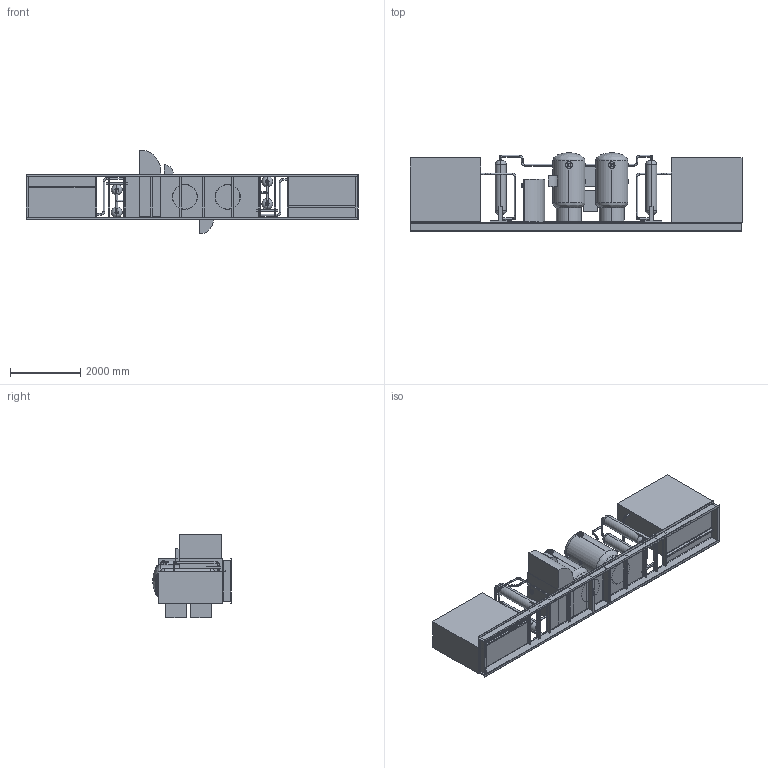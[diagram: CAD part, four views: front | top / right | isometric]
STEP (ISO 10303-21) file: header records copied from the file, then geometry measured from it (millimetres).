
FILE_DESCRIPTION (( 'STEP AP214' ), '1' );
FILE_NAME ('Open100 Instrument Air Skid.STEP', '2020-08-20T15:08:02', ( '' ), ( '' ), 'SwSTEP 2.0', 'SolidWorks 2020', '' );
FILE_SCHEMA (( 'AUTOMOTIVE_DESIGN' ));
Length unit declared in the file: inch
Products named in the file (1): Open100 Instrument Air Skid
Bounding box: 9448.8 x 2230.44 x 2387.6 mm (x, y, z)
Volume: 8942545034.7 mm3; surface area: 115638128.3 mm2
Topology: 62 solids, 64 shells, 883 faces, 2138 edges, 1382 vertices
Faces by surface type: plane 439, cylinder 288, torus 104, bspline 50, cone 2
Entity records: 29989 total; most frequent: CARTESIAN_POINT 7762, DIRECTION 4516, ORIENTED_EDGE 4244, EDGE_CURVE 2122, AXIS2_PLACEMENT_3D 1648, VERTEX_POINT 1382, LINE 1220, VECTOR 1220
